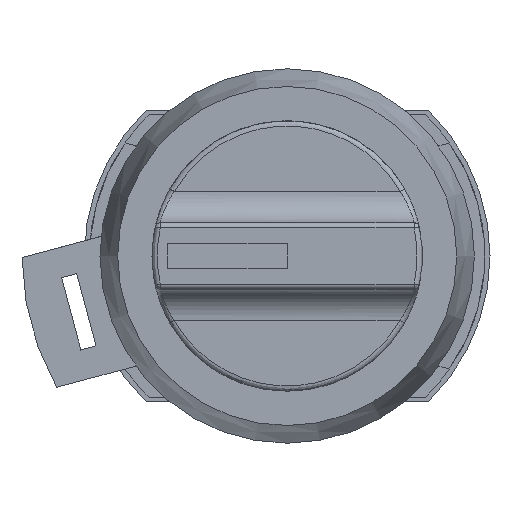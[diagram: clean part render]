
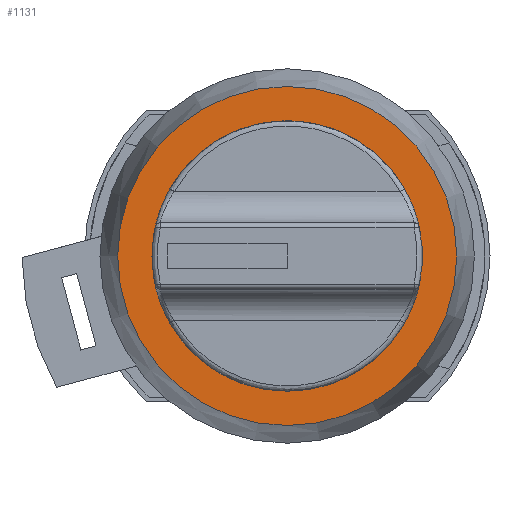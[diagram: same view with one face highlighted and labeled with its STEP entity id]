
A CAD part, left-side view. The second image highlights one B-rep face of the part: STEP entity #1131.
In plain terms, the highlighted planar face has unit normal (-1, 0, 0).
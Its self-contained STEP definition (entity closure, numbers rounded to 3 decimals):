
#1131 = ADVANCED_FACE ( 'NONE', ( #3869, #3861 ), #6064, .T. ) ;
#1416 = EDGE_LOOP ( 'NONE', ( #3168 ) ) ;
#1419 = EDGE_LOOP ( 'NONE', ( #3169 ) ) ;
#2051 = EDGE_CURVE ( 'NONE', #9716, #9716, #3942, .T. ) ;
#2062 = EDGE_CURVE ( 'NONE', #9722, #9722, #3958, .T. ) ;
#3168 = ORIENTED_EDGE ( 'NONE', *, *, #2062, .F. ) ;
#3169 = ORIENTED_EDGE ( 'NONE', *, *, #2051, .T. ) ;
#3861 = FACE_OUTER_BOUND ( 'NONE', #1416, .T. ) ;
#3869 = FACE_BOUND ( 'NONE', #1419, .T. ) ;
#3942 = CIRCLE ( 'NONE', #6388, 6. ) ;
#3958 = CIRCLE ( 'NONE', #6391, 16.3 ) ;
#6056 = CARTESIAN_POINT ( 'NONE',  ( 0., 11.15, 0. ) ) ;
#6064 = PLANE ( 'NONE',  #6365 ) ;
#6065 = DIRECTION ( 'NONE',  ( -1., 0., 0. ) ) ;
#6066 = DIRECTION ( 'NONE',  ( 0., 0., 1. ) ) ;
#6365 = AXIS2_PLACEMENT_3D ( 'NONE', #6056, #6065, #6066 ) ;
#6388 = AXIS2_PLACEMENT_3D ( 'NONE', #6745, #6752, #6753 ) ;
#6391 = AXIS2_PLACEMENT_3D ( 'NONE', #6768, #6780, #6781 ) ;
#6745 = CARTESIAN_POINT ( 'NONE',  ( 0., 0., 0. ) ) ;
#6752 = DIRECTION ( 'NONE',  ( 1., 0., 0. ) ) ;
#6753 = DIRECTION ( 'NONE',  ( 0., 0., -1. ) ) ;
#6768 = CARTESIAN_POINT ( 'NONE',  ( 0., 0., 0. ) ) ;
#6780 = DIRECTION ( 'NONE',  ( 1., 0., 0. ) ) ;
#6781 = DIRECTION ( 'NONE',  ( 0., 1., 0. ) ) ;
#9716 = VERTEX_POINT ( 'NONE', #9717 ) ;
#9717 = CARTESIAN_POINT ( 'NONE',  ( 0., 0., -6. ) ) ;
#9722 = VERTEX_POINT ( 'NONE', #9723 ) ;
#9723 = CARTESIAN_POINT ( 'NONE',  ( 0., 16.3, 0. ) ) ;
